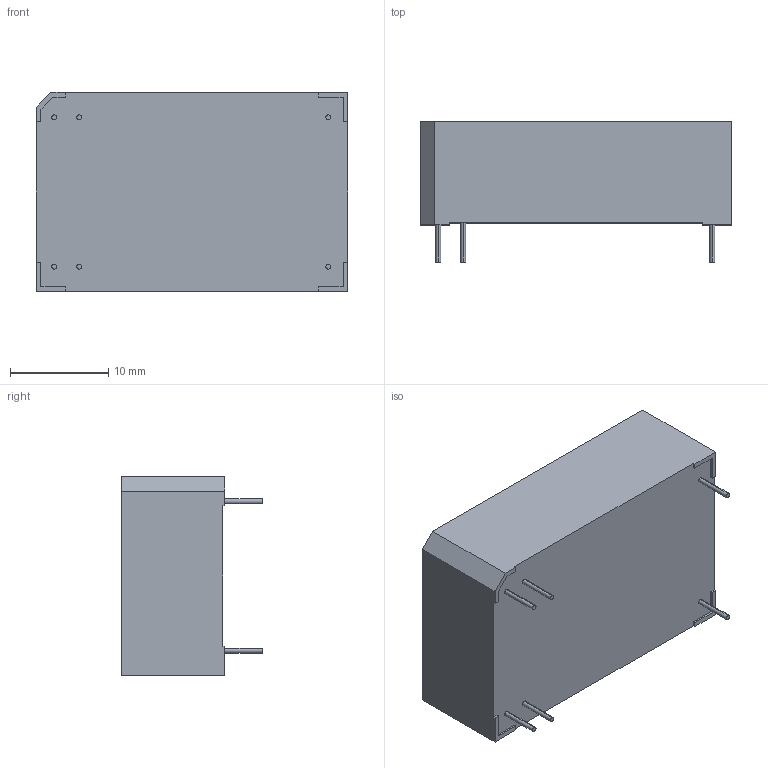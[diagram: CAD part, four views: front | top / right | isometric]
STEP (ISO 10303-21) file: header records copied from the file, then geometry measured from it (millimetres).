
FILE_DESCRIPTION (( 'STEP AP203' ), '1' );
FILE_NAME ('THI 3 Single Output.STEP', '2020-11-13T07:12:06', ( '' ), ( '' ), 'SwSTEP 2.0', 'SolidWorks 2020', '' );
FILE_SCHEMA (( 'CONFIG_CONTROL_DESIGN' ));
Length unit declared in the file: millimetre
Products named in the file (1): THI 3 Single Output
Bounding box: 31.8 x 14.3 x 20.3 mm (x, y, z)
Volume: 6644.3 mm3; surface area: 2400 mm2
Topology: 1 solids, 1 shells, 46 faces, 114 edges, 76 vertices
Faces by surface type: plane 34, cylinder 12
Entity records: 1439 total; most frequent: CARTESIAN_POINT 237, DIRECTION 232, ORIENTED_EDGE 228, EDGE_CURVE 114, LINE 90, VECTOR 90, VERTEX_POINT 76, AXIS2_PLACEMENT_3D 71
